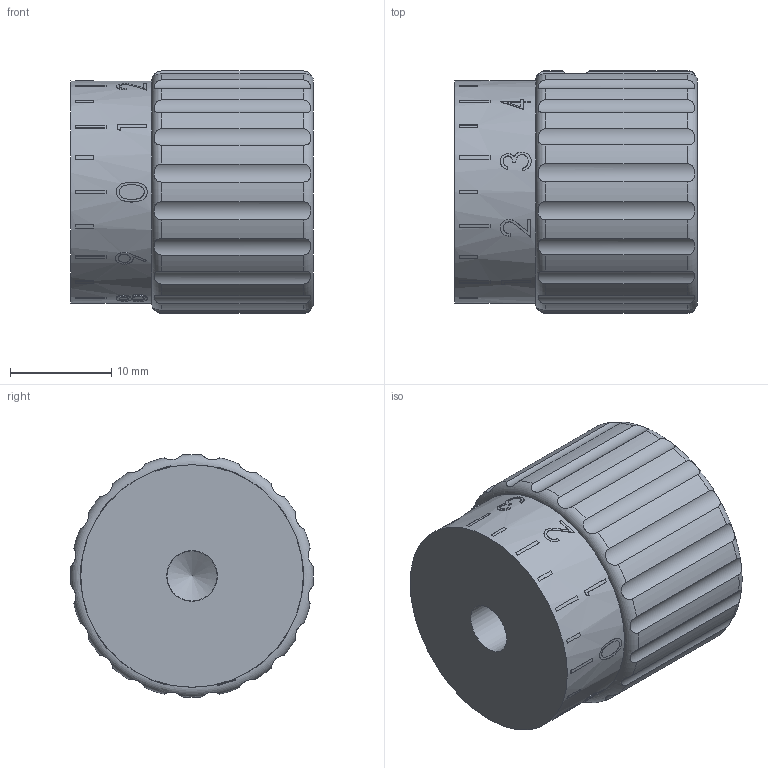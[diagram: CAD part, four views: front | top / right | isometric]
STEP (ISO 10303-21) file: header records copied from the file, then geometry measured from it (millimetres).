
FILE_DESCRIPTION( ( 'STEP AP203' ), '1' );
FILE_NAME( 'C:/Temp/Ganter_Step_05_03_2020/data/1_4/gn_436_1/gn_436_1_s/Stainless Steel-Control knob GN 436.1-24-B5-S-MT.stp', '2020-03-05T10:48:46', ( 'License CC BY-ND 4.0' ), ( 'CADENAS' ), ' ', 'PARTsolutions', ' ' );
FILE_SCHEMA( ( 'CONFIG_CONTROL_DESIGN' ) );
Length unit declared in the file: millimetre
Products named in the file (1): _Stainless Steel-Control knob GN 436.1-24-B5-S-MT
Bounding box: 24 x 24 x 24 mm (x, y, z)
Volume: 9690.4 mm3; surface area: 3003.5 mm2
Topology: 1 solids, 1 shells, 308 faces, 802 edges, 534 vertices
Faces by surface type: cylinder 155, plane 148, cone 3, torus 2
Full cylindrical faces by diameter (mm): 3.242 x2, 4.96 x1, 5 x1, 22 x1
Entity records: 10360 total; most frequent: CARTESIAN_POINT 2835, ORIENTED_EDGE 1566, DIRECTION 1522, EDGE_CURVE 783, AXIS2_PLACEMENT_3D 558, VERTEX_POINT 527, LINE 406, VECTOR 406
